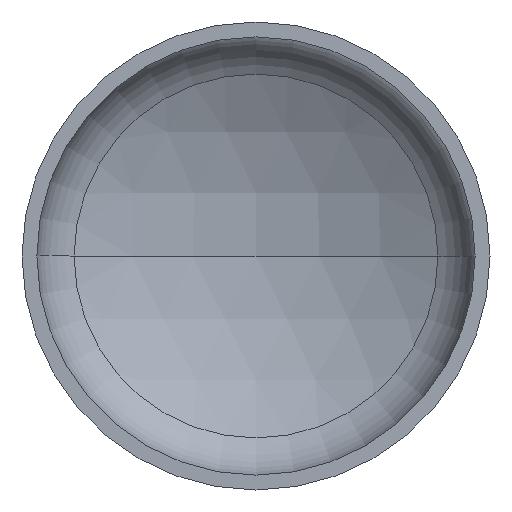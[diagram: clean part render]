
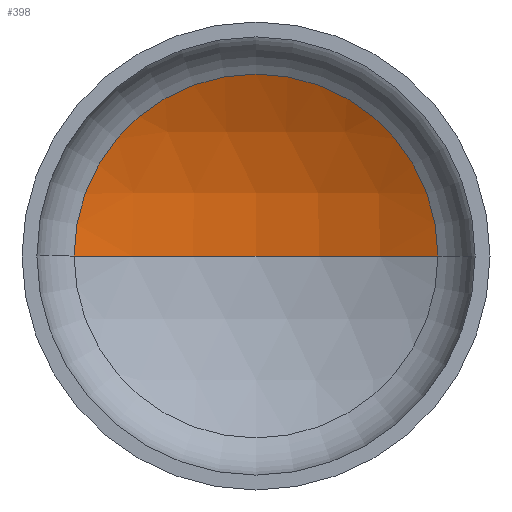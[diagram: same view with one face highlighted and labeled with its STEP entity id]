
A CAD part, front view. The second image highlights one B-rep face of the part: STEP entity #398.
In plain terms, the highlighted spherical face has radius 1760 mm.
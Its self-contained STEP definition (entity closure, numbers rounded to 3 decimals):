
#22 = EDGE_LOOP ( 'NONE', ( #86, #79, #43 ) ) ;
#32 = DIRECTION ( 'NONE',  ( 0., 0., 1. ) ) ;
#35 = VERTEX_POINT ( 'NONE', #259 ) ;
#39 = CARTESIAN_POINT ( 'NONE',  ( 0., -1121.088, 0. ) ) ;
#43 = ORIENTED_EDGE ( 'NONE', *, *, #169, .T. ) ;
#57 = VERTEX_POINT ( 'NONE', #238 ) ;
#68 = AXIS2_PLACEMENT_3D ( 'NONE', #39, #32, #83 ) ;
#70 = AXIS2_PLACEMENT_3D ( 'NONE', #225, #256, #254 ) ;
#79 = ORIENTED_EDGE ( 'NONE', *, *, #175, .T. ) ;
#82 = AXIS2_PLACEMENT_3D ( 'NONE', #276, #271, #269 ) ;
#83 = DIRECTION ( 'NONE',  ( 1., 0., 0. ) ) ;
#86 = ORIENTED_EDGE ( 'NONE', *, *, #185, .F. ) ;
#96 = VERTEX_POINT ( 'NONE', #246 ) ;
#115 = CARTESIAN_POINT ( 'NONE',  ( 0., -1121.088, 0. ) ) ;
#130 = CIRCLE ( 'NONE', #82, 855.211 ) ;
#142 = SPHERICAL_SURFACE ( 'NONE', #325, 1760. ) ;
#169 = EDGE_CURVE ( 'NONE', #96, #57, #130, .T. ) ;
#171 = CIRCLE ( 'NONE', #68, 1760. ) ;
#175 = EDGE_CURVE ( 'NONE', #35, #96, #230, .T. ) ;
#185 = EDGE_CURVE ( 'NONE', #35, #57, #171, .T. ) ;
#209 = FACE_OUTER_BOUND ( 'NONE', #22, .T. ) ;
#225 = CARTESIAN_POINT ( 'NONE',  ( 0., -1121.088, 0. ) ) ;
#230 = CIRCLE ( 'NONE', #70, 1760. ) ;
#238 = CARTESIAN_POINT ( 'NONE',  ( -855.211, 417.162, 0. ) ) ;
#246 = CARTESIAN_POINT ( 'NONE',  ( 855.211, 417.162, 0. ) ) ;
#254 = DIRECTION ( 'NONE',  ( -1., 0., 0. ) ) ;
#256 = DIRECTION ( 'NONE',  ( 0., 0., -1. ) ) ;
#259 = CARTESIAN_POINT ( 'NONE',  ( 0., 638.912, 0. ) ) ;
#265 = DIRECTION ( 'NONE',  ( -1., 0., 0. ) ) ;
#267 = DIRECTION ( 'NONE',  ( 0., 0., -1. ) ) ;
#269 = DIRECTION ( 'NONE',  ( 1., 0., 0. ) ) ;
#271 = DIRECTION ( 'NONE',  ( 0., -1., 0. ) ) ;
#276 = CARTESIAN_POINT ( 'NONE',  ( 0., 417.162, 0. ) ) ;
#325 = AXIS2_PLACEMENT_3D ( 'NONE', #115, #267, #265 ) ;
#398 = ADVANCED_FACE ( 'NONE', ( #209 ), #142, .F. ) ;
